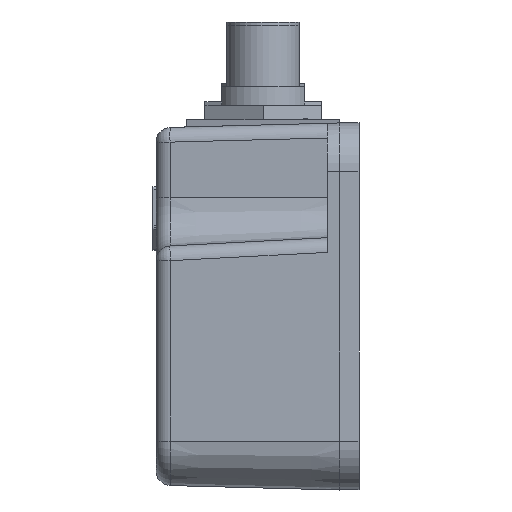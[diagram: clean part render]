
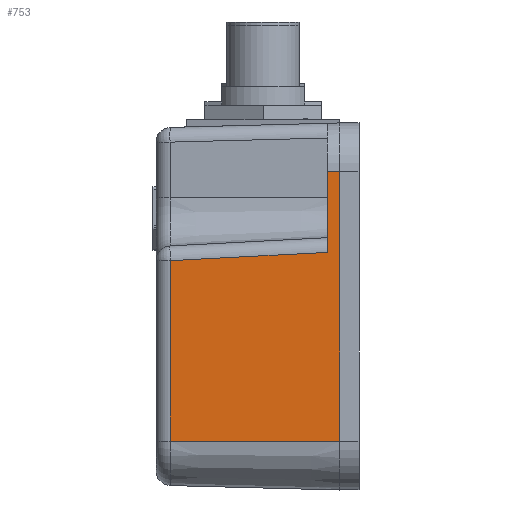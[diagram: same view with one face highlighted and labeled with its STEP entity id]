
A CAD part, left-side view. The second image highlights one B-rep face of the part: STEP entity #753.
In plain terms, the highlighted planar face has unit normal (-1, 0.026, 0).
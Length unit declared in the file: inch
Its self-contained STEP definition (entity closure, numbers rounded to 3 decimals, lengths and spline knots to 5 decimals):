
#637 = VERTEX_POINT ( 'NONE', #4210 ) ;
#699 = VERTEX_POINT ( 'NONE', #4308 ) ;
#702 = EDGE_CURVE ( 'NONE', #699, #637, #4307, .T. ) ;
#745 = VERTEX_POINT ( 'NONE', #4385 ) ;
#746 = ORIENTED_EDGE ( 'NONE', *, *, #769, .T. ) ;
#748 = ORIENTED_EDGE ( 'NONE', *, *, #702, .T. ) ;
#753 = ADVANCED_FACE ( 'NONE', ( #4367 ), #4372, .T. ) ;
#754 = EDGE_LOOP ( 'NONE', ( #777, #778, #776, #774, #748, #746 ) ) ;
#757 = EDGE_CURVE ( 'NONE', #15301, #745, #4422, .T. ) ;
#769 = EDGE_CURVE ( 'NONE', #637, #745, #4409, .T. ) ;
#774 = ORIENTED_EDGE ( 'NONE', *, *, #775, .T. ) ;
#775 = EDGE_CURVE ( 'NONE', #15221, #699, #4400, .T. ) ;
#776 = ORIENTED_EDGE ( 'NONE', *, *, #15223, .T. ) ;
#777 = ORIENTED_EDGE ( 'NONE', *, *, #757, .F. ) ;
#778 = ORIENTED_EDGE ( 'NONE', *, *, #15012, .T. ) ;
#4210 = CARTESIAN_POINT ( 'NONE',  ( -6.02362, 0.0625, 0.86614 ) ) ;
#4304 = DIRECTION ( 'NONE',  ( 0., 0., 1. ) ) ;
#4305 = VECTOR ( 'NONE', #4304, 39.37008 ) ;
#4306 = CARTESIAN_POINT ( 'NONE',  ( -6.02362, 0.0625, 1.1811 ) ) ;
#4307 = LINE ( 'NONE', #4306, #4305 ) ;
#4308 = CARTESIAN_POINT ( 'NONE',  ( -6.02362, 0.0625, -0.86614 ) ) ;
#4367 = FACE_OUTER_BOUND ( 'NONE', #754, .T. ) ;
#4372 = PLANE ( 'NONE',  #4430 ) ;
#4385 = CARTESIAN_POINT ( 'NONE',  ( -6.02156, 0.14124, 0.86614 ) ) ;
#4400 = LINE ( 'NONE', #4462, #4461 ) ;
#4406 = DIRECTION ( 'NONE',  ( 0.026, 1., 0. ) ) ;
#4407 = VECTOR ( 'NONE', #4406, 39.37008 ) ;
#4408 = CARTESIAN_POINT ( 'NONE',  ( -6.02362, 0.0625, 0.86614 ) ) ;
#4409 = LINE ( 'NONE', #4408, #4407 ) ;
#4419 = DIRECTION ( 'NONE',  ( 0., 0., 1. ) ) ;
#4420 = VECTOR ( 'NONE', #4419, 39.37008 ) ;
#4421 = CARTESIAN_POINT ( 'NONE',  ( -6.02156, 0.14124, -1.1811 ) ) ;
#4422 = LINE ( 'NONE', #4421, #4420 ) ;
#4427 = DIRECTION ( 'NONE',  ( -0.026, -1., 0. ) ) ;
#4428 = DIRECTION ( 'NONE',  ( -1., 0.026, 0. ) ) ;
#4429 = CARTESIAN_POINT ( 'NONE',  ( -6.02362, 0.0625, 1.1811 ) ) ;
#4430 = AXIS2_PLACEMENT_3D ( 'NONE', #4429, #4428, #4427 ) ;
#4460 = DIRECTION ( 'NONE',  ( -0.026, -1., 0. ) ) ;
#4461 = VECTOR ( 'NONE', #4460, 39.37008 ) ;
#4462 = CARTESIAN_POINT ( 'NONE',  ( -6.02362, 0.0625, -0.86614 ) ) ;
#15005 = VERTEX_POINT ( 'NONE', #16681 ) ;
#15012 = EDGE_CURVE ( 'NONE', #15301, #15005, #16675, .T. ) ;
#15221 = VERTEX_POINT ( 'NONE', #18100 ) ;
#15223 = EDGE_CURVE ( 'NONE', #15005, #15221, #18099, .T. ) ;
#15301 = VERTEX_POINT ( 'NONE', #18287 ) ;
#16672 = DIRECTION ( 'NONE',  ( 0.026, 0.998, -0.052 ) ) ;
#16673 = VECTOR ( 'NONE', #16672, 39.37008 ) ;
#16674 = CARTESIAN_POINT ( 'NONE',  ( -6.02476, 0.0192, 0.35431 ) ) ;
#16675 = LINE ( 'NONE', #16674, #16673 ) ;
#16681 = CARTESIAN_POINT ( 'NONE',  ( -5.99512, 1.15109, 0.29499 ) ) ;
#18096 = DIRECTION ( 'NONE',  ( 0., 0., -1. ) ) ;
#18097 = VECTOR ( 'NONE', #18096, 39.37008 ) ;
#18098 = CARTESIAN_POINT ( 'NONE',  ( -5.99512, 1.15109, 1.1811 ) ) ;
#18099 = LINE ( 'NONE', #18098, #18097 ) ;
#18100 = CARTESIAN_POINT ( 'NONE',  ( -5.99512, 1.15109, -0.86614 ) ) ;
#18287 = CARTESIAN_POINT ( 'NONE',  ( -6.02156, 0.14124, 0.34791 ) ) ;
